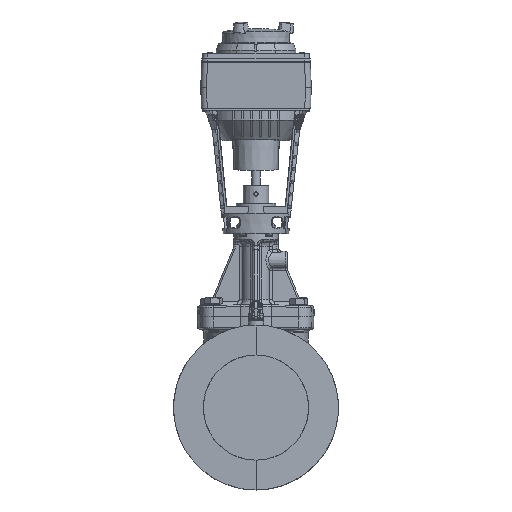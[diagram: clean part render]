
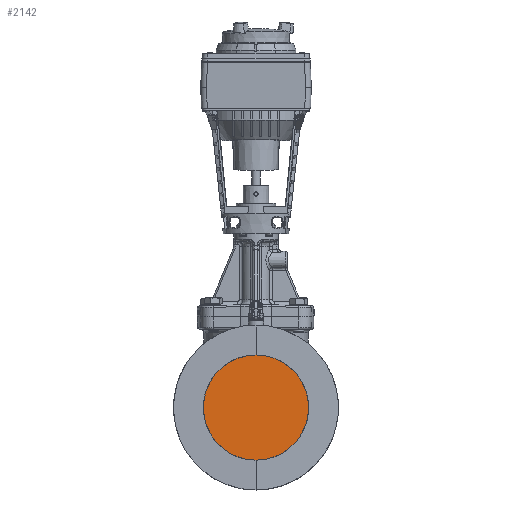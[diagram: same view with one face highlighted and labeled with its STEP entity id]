
A CAD part, left-side view. The second image highlights one B-rep face of the part: STEP entity #2142.
In plain terms, the highlighted planar face has unit normal (-1, 0, 0).
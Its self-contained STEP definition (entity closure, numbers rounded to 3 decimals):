
#2126=CARTESIAN_POINT('',(-145.0,0.0,0.0));
#2127=DIRECTION('',(1.0,0.0,0.0));
#2128=DIRECTION('',(0.0,0.0,-1.0));
#2129=AXIS2_PLACEMENT_3D('',#2126,#2127,#2128);
#2130=PLANE('',#2129);
#2131=CARTESIAN_POINT('',(-145.0,0.,-59.));
#2132=VERTEX_POINT('',#2131);
#2133=CARTESIAN_POINT('',(-145.0,0.0,0.0));
#2134=DIRECTION('',(1.0,0.0,0.0));
#2135=DIRECTION('',(0.0,0.0,1.0));
#2136=AXIS2_PLACEMENT_3D('',#2133,#2134,#2135);
#2137=CIRCLE('',#2136,59.);
#2138=EDGE_CURVE('',#2132,#2132,#2137,.T.);
#2139=ORIENTED_EDGE('',*,*,#2138,.F.);
#2140=EDGE_LOOP('',(#2139));
#2141=FACE_OUTER_BOUND('',#2140,.T.);
#2142=ADVANCED_FACE('',(#2141),#2130,.F.);
